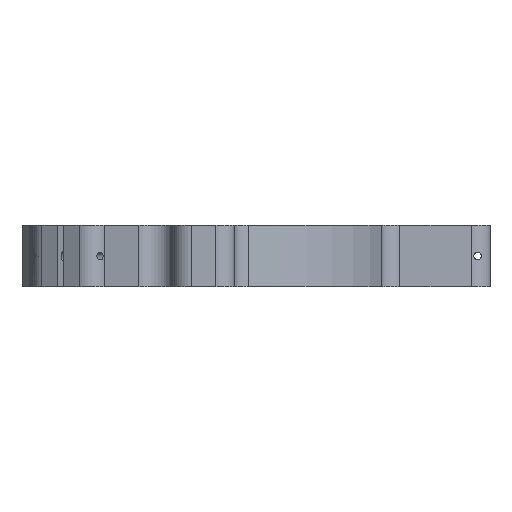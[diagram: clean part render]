
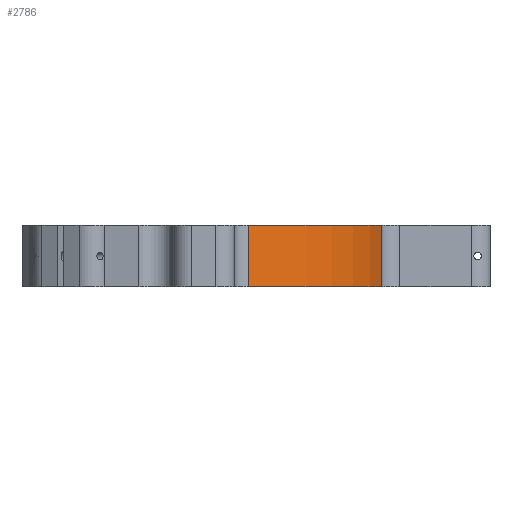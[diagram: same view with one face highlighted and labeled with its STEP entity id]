
A CAD part, left-side view. The second image highlights one B-rep face of the part: STEP entity #2786.
In plain terms, the highlighted cylindrical face has radius 60.415 mm (diameter 120.83 mm), a partial arc.
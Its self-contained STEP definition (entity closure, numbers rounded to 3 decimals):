
#111=CIRCLE('',#2872,60.415);
#193=CIRCLE('',#3011,60.415);
#301=CYLINDRICAL_SURFACE('',#3115,60.415);
#439=FACE_OUTER_BOUND('',#631,.T.);
#631=EDGE_LOOP('',(#2496,#2497,#2498,#2499));
#875=LINE('',#4992,#1105);
#876=LINE('',#4994,#1106);
#1105=VECTOR('',#3931,10.);
#1106=VECTOR('',#3934,10.);
#1183=VERTEX_POINT('',#4141);
#1184=VERTEX_POINT('',#4143);
#1312=VERTEX_POINT('',#4505);
#1313=VERTEX_POINT('',#4507);
#1462=EDGE_CURVE('',#1184,#1183,#111,.T.);
#1640=EDGE_CURVE('',#1312,#1313,#193,.T.);
#1773=EDGE_CURVE('',#1184,#1312,#875,.T.);
#1774=EDGE_CURVE('',#1313,#1183,#876,.T.);
#2496=ORIENTED_EDGE('',*,*,#1773,.F.);
#2497=ORIENTED_EDGE('',*,*,#1462,.T.);
#2498=ORIENTED_EDGE('',*,*,#1774,.F.);
#2499=ORIENTED_EDGE('',*,*,#1640,.F.);
#2786=ADVANCED_FACE('',(#439),#301,.T.);
#2872=AXIS2_PLACEMENT_3D('',#4144,#3273,#3274);
#3011=AXIS2_PLACEMENT_3D('',#4508,#3647,#3648);
#3115=AXIS2_PLACEMENT_3D('',#4993,#3932,#3933);
#3273=DIRECTION('center_axis',(0.,0.,1.));
#3274=DIRECTION('ref_axis',(1.,0.,0.));
#3647=DIRECTION('center_axis',(0.,0.,1.));
#3648=DIRECTION('ref_axis',(1.,0.,0.));
#3931=DIRECTION('',(0.,0.,1.));
#3932=DIRECTION('center_axis',(0.,0.,1.));
#3933=DIRECTION('ref_axis',(1.,0.,0.));
#3934=DIRECTION('',(0.,0.,-1.));
#4141=CARTESIAN_POINT('',(-17.284,-57.89,0.));
#4143=CARTESIAN_POINT('',(-58.636,-14.555,0.));
#4144=CARTESIAN_POINT('Origin',(0.,0.,0.));
#4505=CARTESIAN_POINT('',(-58.636,-14.555,20.));
#4507=CARTESIAN_POINT('',(-17.284,-57.89,20.));
#4508=CARTESIAN_POINT('Origin',(0.,0.,20.));
#4992=CARTESIAN_POINT('',(-58.636,-14.555,0.));
#4993=CARTESIAN_POINT('Origin',(0.,0.,0.));
#4994=CARTESIAN_POINT('',(-17.284,-57.89,0.));
